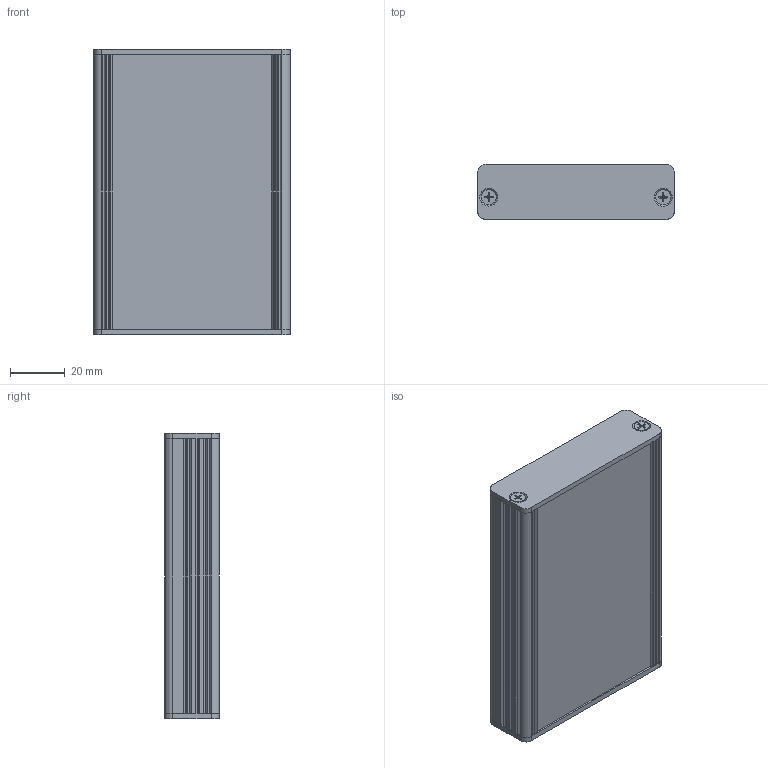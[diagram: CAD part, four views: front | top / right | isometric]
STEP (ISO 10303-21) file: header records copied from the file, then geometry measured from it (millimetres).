
FILE_DESCRIPTION((''),'2;1');
FILE_NAME('C:\Dokumente und Einstellungen\Lochen\Desktop\AKG\AKG_71_20_100.stp','2015-01-15T13:52:31',('Lochen'),(''),'Autodesk Inventor 2012','Autodesk Inventor 2012','');
FILE_SCHEMA(('AUTOMOTIVE_DESIGN { 1 0 10303 214 1 1 1 1 }'));
Length unit declared in the file: millimetre
Products named in the file (5): 001037223; 001032106; 001032109; L0015SGD000018A; DIN EN ISO 7046-1 H M3 x 10 - 4.8 - H
Assembly tree (8 placements, depth 2):
  001037223
    001032106
    001032109
    L0015SGD000018A  x2
    DIN EN ISO 7046-1 H M3 x 10 - 4.8 - H  x4
Bounding box: 71.51 x 20.04 x 104 mm (x, y, z)
Volume: 35713.1 mm3; surface area: 47954.4 mm2
Topology: 8 solids, 8 shells, 357 faces, 995 edges, 654 vertices
Faces by surface type: plane 145, cylinder 140, cone 52, torus 20
Full cylindrical faces by diameter (mm): 2.693 x4, 3 x4, 3.4 x4, 5.5 x4
Entity records: 8554 total; most frequent: CARTESIAN_POINT 1583, DIRECTION 1495, ORIENTED_EDGE 1426, EDGE_CURVE 713, AXIS2_PLACEMENT_3D 536, VERTEX_POINT 480, VECTOR 423, LINE 423
